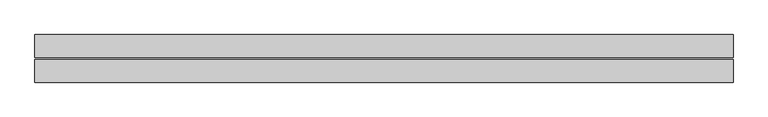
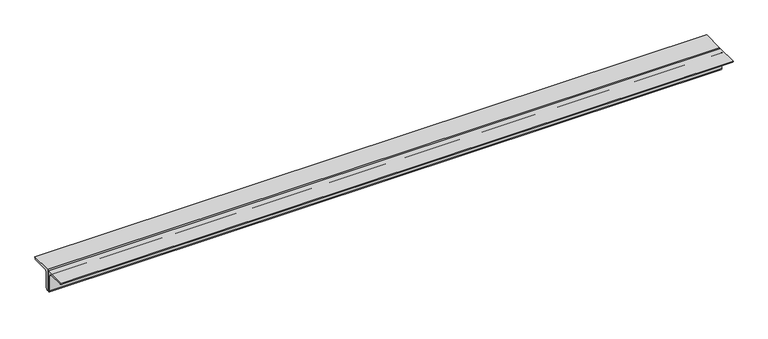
"""IFC4 building model written with IfcOpenShell, lengths in millimetres: beam geometry, Profilati doppi a L : DCED150x12."""

from ifc_helpers import new_model, si_unit, point, frame, frame_2d, origin, place, context, project, spatial, polyline, circle_curve, trimmed, segment, composite_curve, outline, extrude, source, transform, mapped, element, save


def beam_3d815347(model_context):
    return source(origin(), model_context, "Body", "SweptSolid", [
        extrude(outline(composite_curve([segment(polyline([(-6.0, 42.4), (-6.0, -107.6)]), True, "CONTINUOUS"), segment(trimmed(circle_curve(frame_2d((-6.0, -92.6)), 15.0), [point((-6.0, -107.6))], [point((-21.0, -92.6))], False, "CARTESIAN"), True, "CONTINUOUS"), segment(polyline([(-21.0, -92.6), (-21.0, 12.4)]), True, "CONTINUOUS"), segment(trimmed(circle_curve(frame_2d((-36.0, 12.4)), 15.0), [point((-21.0, 12.4))], [point((-36.0, 27.4))], True, "CARTESIAN"), True, "CONTINUOUS"), segment(polyline([(-36.0, 27.4), (-141.0, 27.4)]), True, "CONTINUOUS"), segment(trimmed(circle_curve(frame_2d((-141.0, 42.4)), 15.0), [point((-141.0, 27.4))], [point((-156.0, 42.4))], False, "CARTESIAN"), True, "CONTINUOUS"), segment(polyline([(-156.0, 42.4), (-6.0, 42.4)]), True, "CONTINUOUS")], self_intersect=False)), frame((-2080.0, 0.0, 0.0), z_axis=(1.0, 0.0, 0.0), x_axis=(0.0, 1.0, 0.0)), (0.0, 0.0, 1.0), 4571.0),
        extrude(outline(composite_curve([segment(polyline([(6.0, 42.4), (156.0, 42.4)]), True, "CONTINUOUS"), segment(trimmed(circle_curve(frame_2d((141.0, 42.4)), 15.0), [point((156.0, 42.4))], [point((141.0, 27.4))], False, "CARTESIAN"), True, "CONTINUOUS"), segment(polyline([(141.0, 27.4), (36.0, 27.4)]), True, "CONTINUOUS"), segment(trimmed(circle_curve(frame_2d((36.0, 12.4)), 15.0), [point((36.0, 27.4))], [point((21.0, 12.4))], True, "CARTESIAN"), True, "CONTINUOUS"), segment(polyline([(21.0, 12.4), (21.0, -92.6)]), True, "CONTINUOUS"), segment(trimmed(circle_curve(frame_2d((6.0, -92.6)), 15.0), [point((21.0, -92.6))], [point((6.0, -107.6))], False, "CARTESIAN"), True, "CONTINUOUS"), segment(polyline([(6.0, -107.6), (6.0, 42.4)]), True, "CONTINUOUS")], self_intersect=False)), frame((-2080.0, 0.0, 0.0), z_axis=(1.0, 0.0, 0.0), x_axis=(0.0, 1.0, 0.0)), (0.0, 0.0, 1.0), 4571.0),
    ])


if __name__ == "__main__":
    model = new_model("IFC4")
    model_context = context("Model", 3, world=origin())
    ifc_project = project(units=[si_unit("LENGTHUNIT", "METRE", prefix="MILLI")], contexts=[model_context])
    site = spatial("IfcSite", under=ifc_project)
    building = spatial("IfcBuilding", under=site)
    placement = place(None, origin())
    beam_shape = beam_3d815347(model_context)
    element("IfcBeam", 1, ObjectType="Profilati doppi a L : DCED150x12", at=placement, inside=building, context=model_context, shape_type="MappedRepresentation", body=[
        mapped(beam_shape, transform((0.0, 0.0, 0.0), x_axis=(1.0, 0.0, 0.0), y_axis=(0.0, 1.0, 0.0), z_axis=(0.0, 0.0, 1.0))),
    ])
    save(model, "model.ifc")
